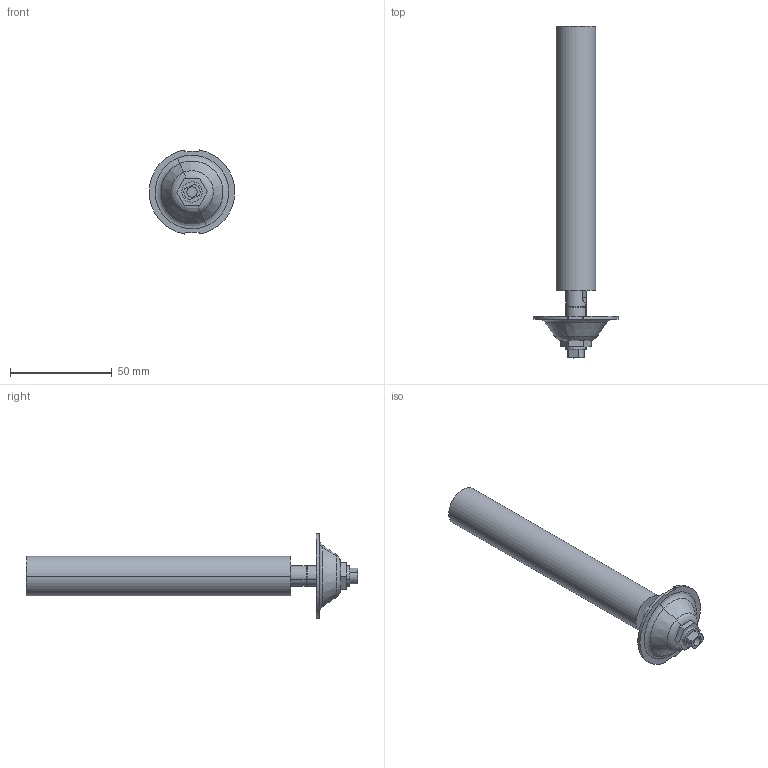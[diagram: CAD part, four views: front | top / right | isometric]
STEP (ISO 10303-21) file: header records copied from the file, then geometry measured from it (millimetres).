
FILE_DESCRIPTION((''),'2;1');
FILE_NAME('CORPO-LUNGO-ALTO_SW0002','2025-05-15T16:32:32',('elena.baldelli'),(''),'CREO PARAMETRIC BY PTC INC, 2020354','CREO PARAMETRIC BY PTC INC, 2020354','');
FILE_SCHEMA(('CONFIG_CONTROL_DESIGN'));
Length unit declared in the file: millimetre
Products named in the file (1): CORPO-LUNGO-ALTO_SW0002
Bounding box: 42 x 163 x 41.29 mm (x, y, z)
Surface area: 14891.1 mm2 (no closed solid volume)
Topology: 0 solids, 8 shells, 77 faces, 209 edges, 144 vertices
Faces by surface type: plane 37, cylinder 25, torus 9, cone 6
Entity records: 2557 total; most frequent: CARTESIAN_POINT 530, DIRECTION 448, ORIENTED_EDGE 360, EDGE_CURVE 209, AXIS2_PLACEMENT_3D 170, VERTEX_POINT 144, VECTOR 108, LINE 108
